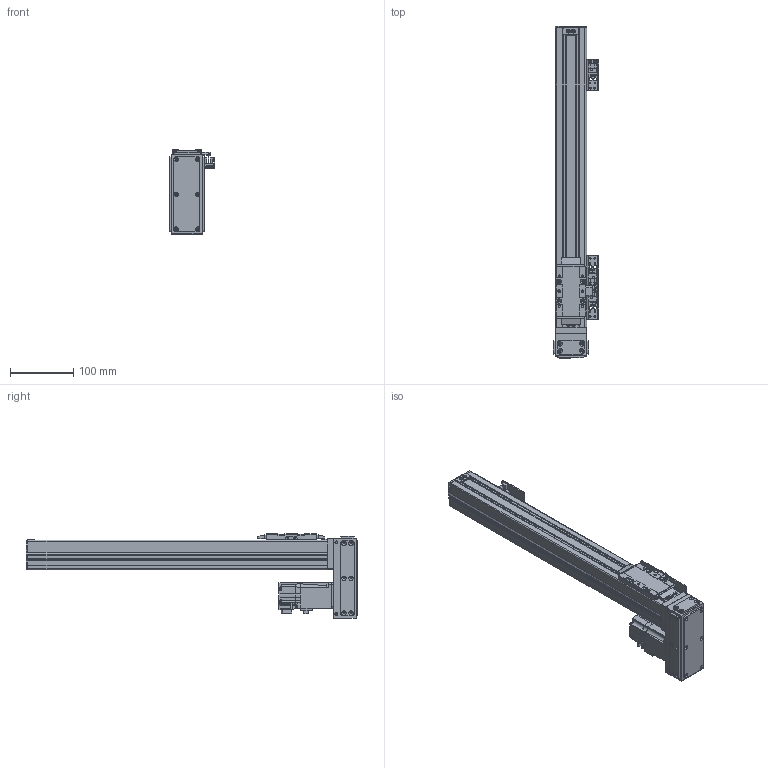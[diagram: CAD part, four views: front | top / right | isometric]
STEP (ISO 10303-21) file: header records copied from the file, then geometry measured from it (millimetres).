
FILE_DESCRIPTION(/* description */ (''),/* implementation_level */ '2;1');
FILE_NAME(/* name */ '\\192.168.0.160\disk1\HAN SHIN Master\B-설계부문\C-표준\B-2024년\BC02-표준도면\+로봇 개선표준도면\홈페이지 표준 도면\홈페이지 최종 작업 폴더\3D\HC\HC50-D10-N-0350-R10 (높이 변경).stp',/* time_stamp */ '2025-01-17T17:34:01+09:00',/* author */ ('user'),/* organization */ (''),/* preprocessor_version */ 'ST-DEVELOPER v18.1',/* originating_system */ 'Autodesk Inventor 2022',/* authorisation */ '');
FILE_SCHEMA (('AUTOMOTIVE_DESIGN { 1 0 10303 214 3 1 1 }'));
Length unit declared in the file: millimetre
Products named in the file (27): HC50-D10-N-0200-R10 (높이 변경); HC50 BASE-R1; HC50 REAR BLOCK; HR45 FRONT BLOCK; SENSOR DOG BRK; HC50 SENSOR DOG; ISO 4762 - M3 x 16; HC45 UPCOVER; HC75,90 SHEET PLATE; HC45, HC65 STOPPER; HC50 REAR COVER-R3; SENSOR BRK(EE-SX674A); EE_SX674A; ESF1210 NUT; HC50SIDECOVER000; HC50 TABLE (서버리 테이프); HC75 TABLE COVER; HC45 TABLE SIDE COVER; MAGNET(∅10X3); hg-kr13_; HC50 DS; HC50 D MOTOR PLATE; HR45 MOTOR PLATE 100W; HC50 D BELT COVER; HR45 ACRYL COVER(정면); HR45 ACRYL COVER(상하면); HR45 ACRYL COVER(측면)
Assembly tree (38 placements, depth 3):
  HC50-D10-N-0200-R10 (높이 변경)
    HC50 BASE-R1
    HC50 REAR BLOCK
    HR45 FRONT BLOCK
    SENSOR BRK(EE-SX674A)  x3
    EE_SX674A  x3
    SENSOR DOG BRK
    HC50 SENSOR DOG
    ISO 4762 - M3 x 16  x2
    HC45 UPCOVER
    HC75,90 SHEET PLATE  x2
    HC45, HC65 STOPPER  x2
    MAGNET(∅10X3)  x3
    HC50 REAR COVER-R3
    ESF1210 NUT
    HC50SIDECOVER000  x2
    HC45 TABLE SIDE COVER  x2
    HC50 TABLE (서버리 테이프)
    HC75 TABLE COVER
    hg-kr13_
    HC50 DS
      HC50 D MOTOR PLATE
      HR45 MOTOR PLATE 100W
      HC50 D BELT COVER
      HR45 ACRYL COVER(정면)
      HR45 ACRYL COVER(상하면)
      HR45 ACRYL COVER(측면)  x2
Bounding box: 72 x 523 x 133 mm (x, y, z)
Volume: 648860.9 mm3; surface area: 424861.6 mm2
Topology: 39 solids, 39 shells, 1553 faces, 4155 edges, 2726 vertices
Faces by surface type: plane 850, cylinder 593, cone 97, bspline 9, torus 4
Full cylindrical faces by diameter (mm): 2.013 x4, 2.459 x91, 3 x2, 3.242 x26, 3.4 x34, 3.5 x34, 4 x8, 4.5 x16, 5 x16, 5.5 x2, 5.6 x2, 5.9 x2, 6 x17, 6.5 x2, 8 x1, 9 x2, 10 x4, 10.5 x3, 12 x1, 15 x3, 18 x1, 21 x2, 22 x2, 24 x1, 24.5 x1, 26 x1, 30 x2
Entity records: 40281 total; most frequent: CARTESIAN_POINT 7741, DIRECTION 6629, ORIENTED_EDGE 6366, EDGE_CURVE 3183, AXIS2_PLACEMENT_3D 2261, VERTEX_POINT 2112, LINE 2107, VECTOR 2107
